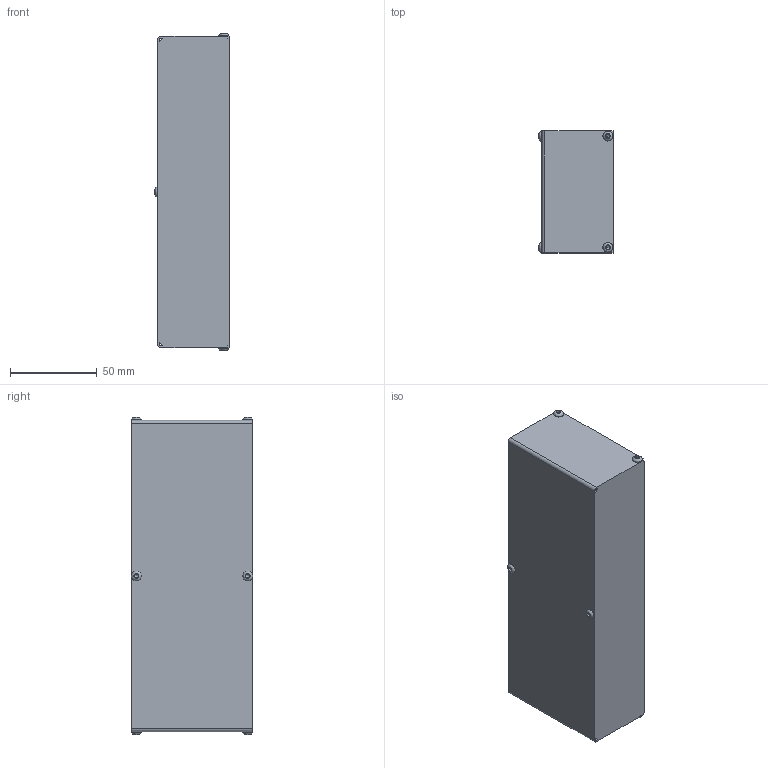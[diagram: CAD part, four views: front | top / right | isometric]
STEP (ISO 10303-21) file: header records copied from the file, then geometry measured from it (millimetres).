
FILE_DESCRIPTION(/* description */ (''),/* implementation_level */ '2;1');
FILE_NAME(/* name */ 'X:\VIRI ZA WEB\CAD DATOTEKE\LINEARNE ENOTE UNIMOTION\DODATNA OPREMA ZA LINEARNE ENOTE\STRANSKI POGONI\CTV-MTV\CTV 110-MTV 65\MSD CTV 110 T1 1 55 X 55\izvoz\CAD_71380.stp',/* time_stamp */ '2016-06-06T09:41:37+02:00',/* author */ ('Hypex'),/* organization */ ('Hypex'),/* preprocessor_version */ 'ST-DEVELOPER v16.1',/* originating_system */ 'Autodesk Inventor 2016',/* authorisation */ '');
FILE_SCHEMA (('AUTOMOTIVE_DESIGN { 1 0 10303 214 3 1 1 }'));
Length unit declared in the file: millimetre
Products named in the file (1): CAD_71380
Bounding box: 42.65 x 70 x 182.3 mm (x, y, z)
Volume: 501625.7 mm3; surface area: 49397.5 mm2
Topology: 1 solids, 13 shells, 192 faces, 458 edges, 303 vertices
Faces by surface type: plane 111, cylinder 49, cone 20, bspline 6, torus 6
Full cylindrical faces by diameter (mm): 2.459 x6, 3 x6, 4 x6, 5.7 x6, 6.2 x8, 25 x1
Entity records: 5227 total; most frequent: CARTESIAN_POINT 1053, DIRECTION 820, ORIENTED_EDGE 716, EDGE_CURVE 358, AXIS2_PLACEMENT_3D 317, EDGE_LOOP 278, VERTEX_POINT 262, STYLED_ITEM 193
